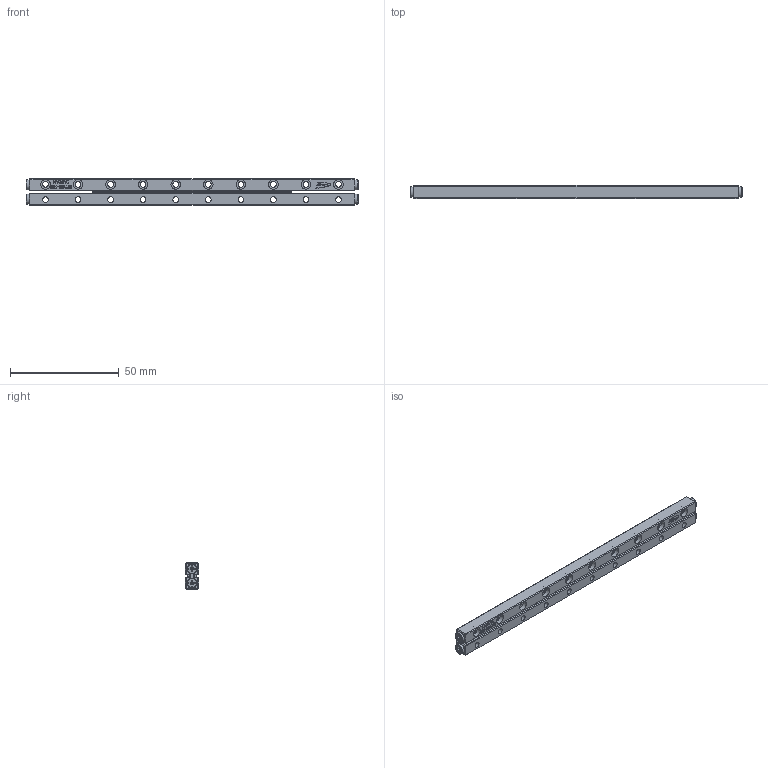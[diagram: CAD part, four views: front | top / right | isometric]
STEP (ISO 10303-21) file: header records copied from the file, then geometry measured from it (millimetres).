
FILE_DESCRIPTION (( 'STEP AP203' ), '1' );
FILE_NAME ('GRV02-150.STEP', '2023-08-18T08:58:43', ( '' ), ( '' ), 'SwSTEP 2.0', 'SolidWorks 2019', '' );
FILE_SCHEMA (( 'CONFIG_CONTROL_DESIGN' ));
Length unit declared in the file: millimetre
Products named in the file (3): GRV02-150; GRVP02-150-模糊化保持器組; GRV02-150-模糊化軌道
Assembly tree (3 placements, depth 2):
  GRV02-150
    GRV02-150-模糊化軌道  x2
    GRVP02-150-模糊化保持器組
Bounding box: 153 x 6 x 12 mm (x, y, z)
Volume: 8929.3 mm3; surface area: 9573.8 mm2
Topology: 3 solids, 3 shells, 1066 faces, 2612 edges, 1692 vertices
Faces by surface type: plane 724, cylinder 136, bspline 116, torus 54, cone 36
Full cylindrical faces by diameter (mm): 2.6 x20, 4.4 x20, 4.7 x4
Entity records: 25280 total; most frequent: CARTESIAN_POINT 9009, ORIENTED_EDGE 3382, DIRECTION 2925, EDGE_CURVE 1691, VECTOR 1129, LINE 1129, VERTEX_POINT 1116, AXIS2_PLACEMENT_3D 898
